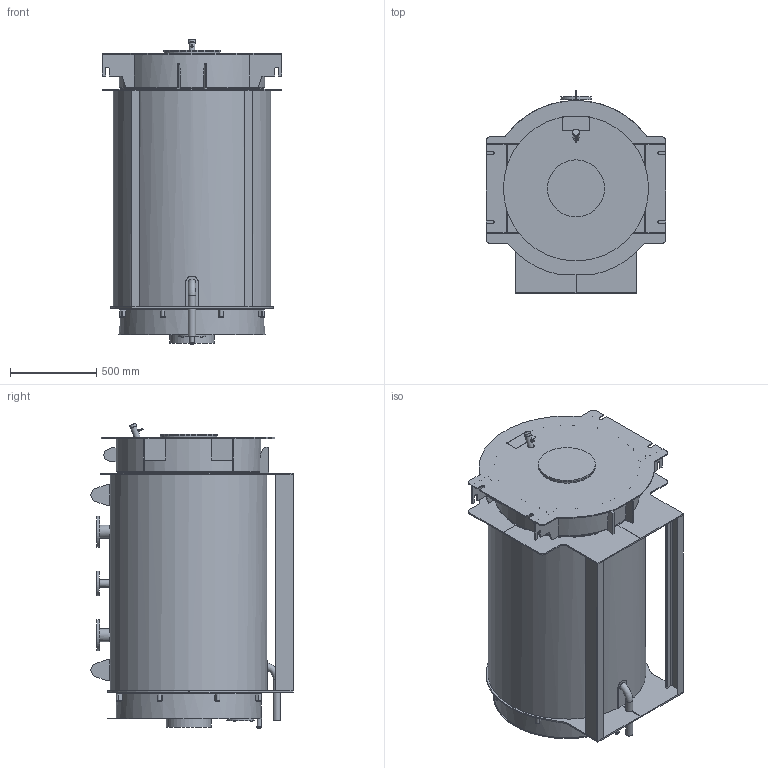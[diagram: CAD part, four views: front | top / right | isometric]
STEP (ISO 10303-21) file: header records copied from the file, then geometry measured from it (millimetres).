
FILE_DESCRIPTION(/* description */ (''),/* implementation_level */ '2;1');
FILE_NAME(/* name */ 'D:\Водогрейные 2х-ходовые котлы Гейзер\3D для проектировщиков\Гейзер 250 кВт.stp',/* time_stamp */ '2024-08-14T13:00:39+07:00',/* author */ ('Александр'),/* organization */ (''),/* preprocessor_version */ 'ST-DEVELOPER v18.1',/* originating_system */ 'Autodesk Inventor 2021',/* authorisation */ '');
FILE_SCHEMA (('AUTOMOTIVE_DESIGN { 1 0 10303 214 3 1 1 }'));
Length unit declared in the file: millimetre
Products named in the file (1): Гейзер 250 кВт
Bounding box: 1040 x 1170.87 x 1770.56 mm (x, y, z)
Volume: 1048623067.4 mm3; surface area: 9480962 mm2
Topology: 2 solids, 5 shells, 636 faces, 1656 edges, 1026 vertices
Faces by surface type: plane 433, cylinder 172, cone 24, torus 6, bspline 1
Full cylindrical faces by diameter (mm): 4 x1, 6 x1, 7.8 x1, 8.7 x3, 21.939 x1, 24 x8, 25 x1, 26 x1, 33.5 x1, 38 x1, 42 x2, 45 x2, 76 x4, 145 x1, 160 x2, 180 x2, 260 x1, 330 x2, 812 x2, 841 x1, 914 x1
Entity records: 20542 total; most frequent: CARTESIAN_POINT 3838, DIRECTION 3439, ORIENTED_EDGE 3324, EDGE_CURVE 1665, AXIS2_PLACEMENT_3D 1197, LINE 1045, VECTOR 1045, VERTEX_POINT 1028
